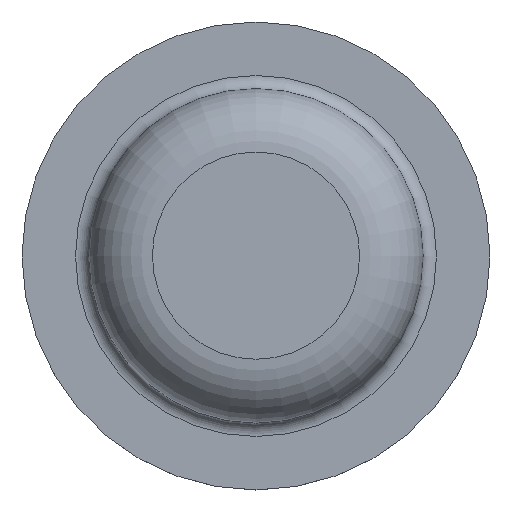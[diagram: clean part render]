
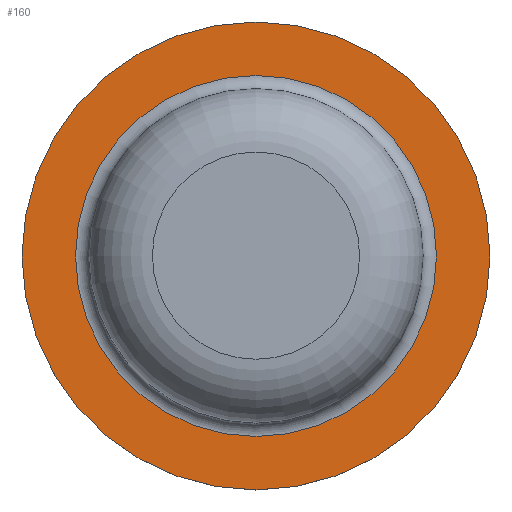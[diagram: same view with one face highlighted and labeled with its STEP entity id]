
A CAD part, top view. The second image highlights one B-rep face of the part: STEP entity #160.
In plain terms, the highlighted planar face has unit normal (0, 0, 1).
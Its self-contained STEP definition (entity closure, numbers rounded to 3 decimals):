
#18=FACE_BOUND('',#46,.T.);
#22=PLANE('',#205);
#34=FACE_OUTER_BOUND('',#45,.T.);
#45=EDGE_LOOP('',(#143,#144));
#46=EDGE_LOOP('',(#145));
#69=CIRCLE('',#203,2.7);
#71=CIRCLE('',#206,3.5);
#72=CIRCLE('',#207,3.5);
#85=VERTEX_POINT('',#306);
#86=VERTEX_POINT('',#310);
#87=VERTEX_POINT('',#311);
#104=EDGE_CURVE('',#85,#85,#69,.T.);
#106=EDGE_CURVE('',#86,#87,#71,.T.);
#107=EDGE_CURVE('',#87,#86,#72,.T.);
#143=ORIENTED_EDGE('',*,*,#106,.T.);
#144=ORIENTED_EDGE('',*,*,#107,.T.);
#145=ORIENTED_EDGE('',*,*,#104,.F.);
#160=ADVANCED_FACE('',(#34,#18),#22,.T.);
#203=AXIS2_PLACEMENT_3D('',#307,#256,#257);
#205=AXIS2_PLACEMENT_3D('',#309,#260,#261);
#206=AXIS2_PLACEMENT_3D('',#312,#262,#263);
#207=AXIS2_PLACEMENT_3D('',#313,#264,#265);
#256=DIRECTION('center_axis',(0.,0.,1.));
#257=DIRECTION('ref_axis',(-1.,0.,0.));
#260=DIRECTION('center_axis',(0.,0.,1.));
#261=DIRECTION('ref_axis',(1.,0.,0.));
#262=DIRECTION('center_axis',(0.,0.,1.));
#263=DIRECTION('ref_axis',(1.,0.,0.));
#264=DIRECTION('center_axis',(0.,0.,1.));
#265=DIRECTION('ref_axis',(1.,0.,0.));
#306=CARTESIAN_POINT('',(2.7,0.,0.5));
#307=CARTESIAN_POINT('Origin',(0.,0.,0.5));
#309=CARTESIAN_POINT('Origin',(0.,0.,0.5));
#310=CARTESIAN_POINT('',(3.5,0.,0.5));
#311=CARTESIAN_POINT('',(-3.5,0.,0.5));
#312=CARTESIAN_POINT('Origin',(0.,0.,0.5));
#313=CARTESIAN_POINT('Origin',(0.,0.,0.5));
